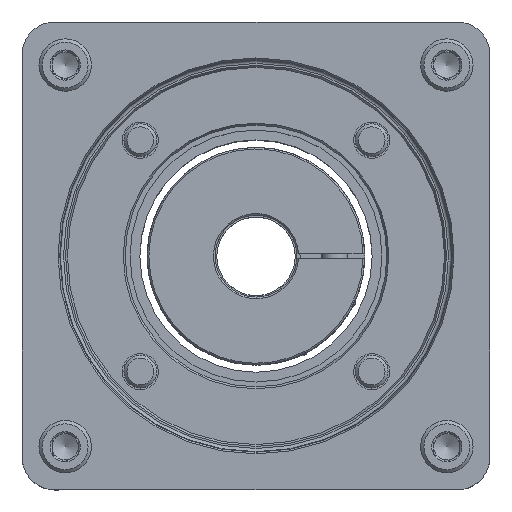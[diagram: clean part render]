
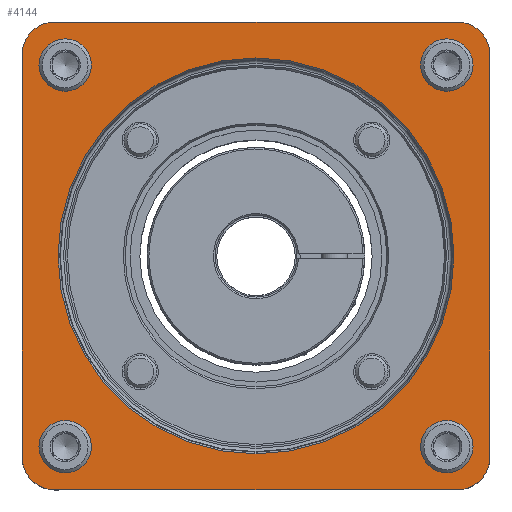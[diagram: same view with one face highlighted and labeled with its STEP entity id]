
A CAD part, top view. The second image highlights one B-rep face of the part: STEP entity #4144.
In plain terms, the highlighted planar face has unit normal (0, 0, 1).
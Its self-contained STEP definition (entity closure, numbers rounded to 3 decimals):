
#244=LINE('',#6767,#444);
#249=LINE('',#6780,#449);
#253=LINE('',#6792,#453);
#257=LINE('',#6804,#457);
#444=VECTOR('',#5495,123.);
#449=VECTOR('',#5508,123.);
#453=VECTOR('',#5520,123.);
#457=VECTOR('',#5532,123.);
#891=FACE_BOUND('',#1522,.T.);
#892=FACE_BOUND('',#1523,.T.);
#893=FACE_BOUND('',#1524,.T.);
#894=FACE_BOUND('',#1525,.T.);
#895=FACE_BOUND('',#1526,.T.);
#1094=FACE_OUTER_BOUND('',#1521,.T.);
#1521=EDGE_LOOP('',(#3322,#3323,#3324,#3325,#3326,#3327,#3328,#3329));
#1522=EDGE_LOOP('',(#3330));
#1523=EDGE_LOOP('',(#3331));
#1524=EDGE_LOOP('',(#3332));
#1525=EDGE_LOOP('',(#3333));
#1526=EDGE_LOOP('',(#3334));
#1846=CIRCLE('',#4539,5.5);
#1848=CIRCLE('',#4542,5.5);
#1850=CIRCLE('',#4545,5.5);
#1852=CIRCLE('',#4548,5.5);
#1854=CIRCLE('',#4551,60.516);
#1870=CIRCLE('',#4583,10.);
#1872=CIRCLE('',#4587,10.);
#1874=CIRCLE('',#4591,10.);
#1876=CIRCLE('',#4595,10.);
#2130=VERTEX_POINT('',#6696);
#2132=VERTEX_POINT('',#6701);
#2134=VERTEX_POINT('',#6706);
#2136=VERTEX_POINT('',#6711);
#2138=VERTEX_POINT('',#6716);
#2155=VERTEX_POINT('',#6764);
#2156=VERTEX_POINT('',#6766);
#2158=VERTEX_POINT('',#6772);
#2160=VERTEX_POINT('',#6778);
#2162=VERTEX_POINT('',#6784);
#2164=VERTEX_POINT('',#6790);
#2166=VERTEX_POINT('',#6796);
#2168=VERTEX_POINT('',#6802);
#2546=EDGE_CURVE('',#2130,#2130,#1846,.T.);
#2548=EDGE_CURVE('',#2132,#2132,#1848,.T.);
#2550=EDGE_CURVE('',#2134,#2134,#1850,.T.);
#2552=EDGE_CURVE('',#2136,#2136,#1852,.T.);
#2554=EDGE_CURVE('',#2138,#2138,#1854,.T.);
#2571=EDGE_CURVE('',#2156,#2155,#244,.T.);
#2575=EDGE_CURVE('',#2155,#2158,#1870,.T.);
#2578=EDGE_CURVE('',#2158,#2160,#249,.T.);
#2581=EDGE_CURVE('',#2160,#2162,#1872,.T.);
#2584=EDGE_CURVE('',#2162,#2164,#253,.T.);
#2587=EDGE_CURVE('',#2164,#2166,#1874,.T.);
#2590=EDGE_CURVE('',#2166,#2168,#257,.T.);
#2592=EDGE_CURVE('',#2168,#2156,#1876,.T.);
#3322=ORIENTED_EDGE('',*,*,#2592,.T.);
#3323=ORIENTED_EDGE('',*,*,#2571,.T.);
#3324=ORIENTED_EDGE('',*,*,#2575,.T.);
#3325=ORIENTED_EDGE('',*,*,#2578,.T.);
#3326=ORIENTED_EDGE('',*,*,#2581,.T.);
#3327=ORIENTED_EDGE('',*,*,#2584,.T.);
#3328=ORIENTED_EDGE('',*,*,#2587,.T.);
#3329=ORIENTED_EDGE('',*,*,#2590,.T.);
#3330=ORIENTED_EDGE('',*,*,#2546,.T.);
#3331=ORIENTED_EDGE('',*,*,#2548,.T.);
#3332=ORIENTED_EDGE('',*,*,#2550,.T.);
#3333=ORIENTED_EDGE('',*,*,#2552,.T.);
#3334=ORIENTED_EDGE('',*,*,#2554,.T.);
#3919=PLANE('',#4597);
#4144=ADVANCED_FACE('',(#1094,#891,#892,#893,#894,#895),#3919,.T.);
#4539=AXIS2_PLACEMENT_3D('',#6697,#5409,#5410);
#4542=AXIS2_PLACEMENT_3D('',#6702,#5415,#5416);
#4545=AXIS2_PLACEMENT_3D('',#6707,#5421,#5422);
#4548=AXIS2_PLACEMENT_3D('',#6712,#5427,#5428);
#4551=AXIS2_PLACEMENT_3D('',#6717,#5433,#5434);
#4583=AXIS2_PLACEMENT_3D('',#6774,#5502,#5503);
#4587=AXIS2_PLACEMENT_3D('',#6786,#5514,#5515);
#4591=AXIS2_PLACEMENT_3D('',#6798,#5526,#5527);
#4595=AXIS2_PLACEMENT_3D('',#6807,#5537,#5538);
#4597=AXIS2_PLACEMENT_3D('',#6809,#5541,#5542);
#5409=DIRECTION('center_axis',(0.,0.,-1.));
#5410=DIRECTION('ref_axis',(-1.,0.,0.));
#5415=DIRECTION('center_axis',(0.,0.,-1.));
#5416=DIRECTION('ref_axis',(-1.,0.,0.));
#5421=DIRECTION('center_axis',(0.,0.,-1.));
#5422=DIRECTION('ref_axis',(-1.,0.,0.));
#5427=DIRECTION('center_axis',(0.,0.,-1.));
#5428=DIRECTION('ref_axis',(-1.,0.,0.));
#5433=DIRECTION('center_axis',(0.,0.,-1.));
#5434=DIRECTION('ref_axis',(0.,1.,0.));
#5495=DIRECTION('',(1.,0.,0.));
#5502=DIRECTION('center_axis',(0.,0.,1.));
#5503=DIRECTION('ref_axis',(0.,-1.,0.));
#5508=DIRECTION('',(0.,1.,0.));
#5514=DIRECTION('center_axis',(0.,0.,1.));
#5515=DIRECTION('ref_axis',(1.,0.,0.));
#5520=DIRECTION('',(-1.,0.,0.));
#5526=DIRECTION('center_axis',(0.,0.,1.));
#5527=DIRECTION('ref_axis',(0.,1.,0.));
#5532=DIRECTION('',(0.,-1.,0.));
#5537=DIRECTION('center_axis',(0.,0.,1.));
#5538=DIRECTION('ref_axis',(-1.,0.,0.));
#5541=DIRECTION('center_axis',(0.,0.,1.));
#5542=DIRECTION('ref_axis',(1.,0.,0.));
#6696=CARTESIAN_POINT('',(-63.836,-58.336,0.));
#6697=CARTESIAN_POINT('Origin',(-58.336,-58.336,0.));
#6701=CARTESIAN_POINT('',(52.836,-58.336,0.));
#6702=CARTESIAN_POINT('Origin',(58.336,-58.336,0.));
#6706=CARTESIAN_POINT('',(-63.836,58.336,0.));
#6707=CARTESIAN_POINT('Origin',(-58.336,58.336,0.));
#6711=CARTESIAN_POINT('',(52.836,58.336,0.));
#6712=CARTESIAN_POINT('Origin',(58.336,58.336,0.));
#6716=CARTESIAN_POINT('',(0.,60.516,0.));
#6717=CARTESIAN_POINT('Origin',(0.,0.,0.));
#6764=CARTESIAN_POINT('',(61.5,-71.5,0.));
#6766=CARTESIAN_POINT('',(-61.5,-71.5,0.));
#6767=CARTESIAN_POINT('',(-61.5,-71.5,0.));
#6772=CARTESIAN_POINT('',(71.5,-61.5,0.));
#6774=CARTESIAN_POINT('Origin',(61.5,-61.5,0.));
#6778=CARTESIAN_POINT('',(71.5,61.5,0.));
#6780=CARTESIAN_POINT('',(71.5,-61.5,0.));
#6784=CARTESIAN_POINT('',(61.5,71.5,0.));
#6786=CARTESIAN_POINT('Origin',(61.5,61.5,0.));
#6790=CARTESIAN_POINT('',(-61.5,71.5,0.));
#6792=CARTESIAN_POINT('',(61.5,71.5,0.));
#6796=CARTESIAN_POINT('',(-71.5,61.5,0.));
#6798=CARTESIAN_POINT('Origin',(-61.5,61.5,0.));
#6802=CARTESIAN_POINT('',(-71.5,-61.5,0.));
#6804=CARTESIAN_POINT('',(-71.5,61.5,0.));
#6807=CARTESIAN_POINT('Origin',(-61.5,-61.5,0.));
#6809=CARTESIAN_POINT('Origin',(0.,0.,0.));
